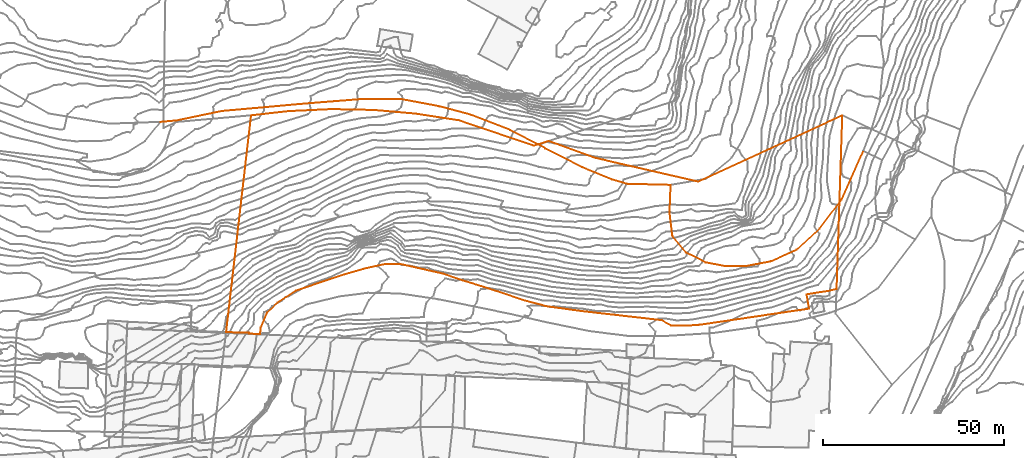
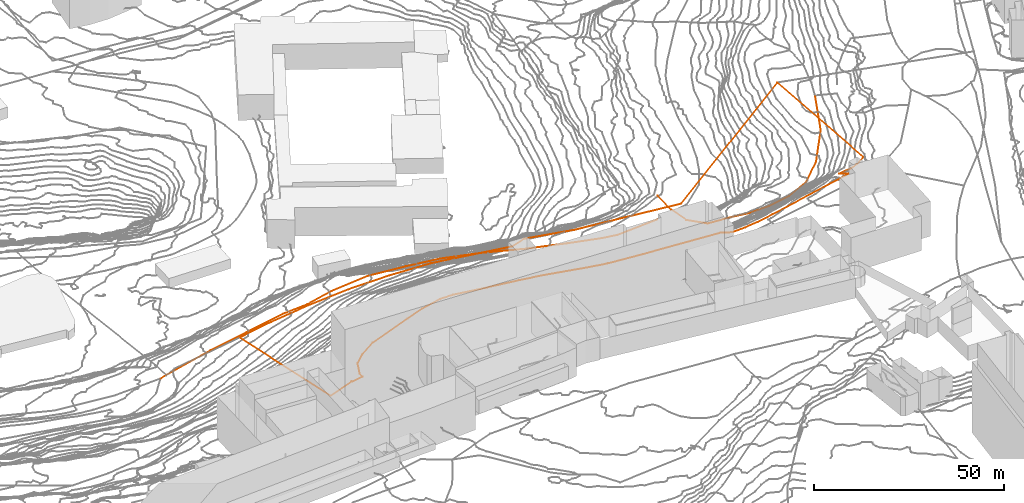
# Not in any storey, part 219 of 419: 4 proxies.
"""IFC2X3 model written with IfcOpenShell, lengths in metres."""

from ifc_helpers import new_model, entity, si_unit, frame, origin_with_axes, place, context, subcontext, project, element, save


model = new_model("IFC2X3")

# Units and contexts
model_context = context("Model", 3, precision=1e-05, world=origin_with_axes())
body_context = subcontext(model_context, "Body", "Model", "MODEL_VIEW")
ifc_project = project(units=[si_unit("AREAUNIT", "SQUARE_METRE"), si_unit("LENGTHUNIT", "METRE")], contexts=[model_context])

# Proxies
proxy_1_placement = place(None, frame((639.2920204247, 391.6976909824, 52.9), z_axis=(0.0, 0.0, 1.0), x_axis=(1.0, 0.0, 0.0)))
element("IfcBuildingElementProxy", 1, at=proxy_1_placement, Name="Route 180", ObjectType="NOTDEFINED", context=body_context, shape_type="GeometricCurveSet", body=[
    entity("IfcGeometricCurveSet", [entity("IfcPolyline", [entity("IfcCartesianPoint", [12.1000000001, -0.2999999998, 1.0]), entity("IfcCartesianPoint", [0.0, 0.0, 0.0])])]),
])
proxy_2_placement = place(None, frame((651.0920204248, 383.7976909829, 61.8), z_axis=(0.0, 0.0, 1.0), x_axis=(1.0, 0.0, 0.0)))
element("IfcBuildingElementProxy", 2, at=proxy_2_placement, Name="Route 191", ObjectType="NOTDEFINED", context=body_context, shape_type="GeometricCurveSet", body=[
    entity("IfcGeometricCurveSet", [entity("IfcPolyline", [entity("IfcCartesianPoint", [53.5, 17.0, 7.5]), entity("IfcCartesianPoint", [47.5, 3.5999999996, 6.7]), entity("IfcCartesianPoint", [41.4, -4.5, 3.6]), entity("IfcCartesianPoint", [35.1, -10.3000000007, 2.9]), entity("IfcCartesianPoint", [28.0, -13.5, 2.7]), entity("IfcCartesianPoint", [21.2, -14.8000000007, 2.6]), entity("IfcCartesianPoint", [15.2, -14.8000000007, 2.5]), entity("IfcCartesianPoint", [10.0, -13.8000000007, 2.3]), entity("IfcCartesianPoint", [4.6, -11.1000000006, 0.6]), entity("IfcCartesianPoint", [0.8, -6.6000000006, 0.3]), entity("IfcCartesianPoint", [0.0, 0.0, 0.0]), entity("IfcCartesianPoint", [0.3, 7.5999999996, -0.3])])]),
])
proxy_3_placement = place(None, frame((510.4920204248, 408.7976909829, 41.6), z_axis=(0.0, 0.0, 1.0), x_axis=(1.0, 0.0, 0.0)))
element("IfcBuildingElementProxy", 3, at=proxy_3_placement, Name="Route 274", ObjectType="NOTDEFINED", context=body_context, shape_type="GeometricCurveSet", body=[
    entity("IfcGeometricCurveSet", [entity("IfcPolyline", [entity("IfcCartesianPoint", [128.7999999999, -17.1000000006, 11.3]), entity("IfcCartesianPoint", [124.7, -15.9000000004, 11.0]), entity("IfcCartesianPoint", [116.4, -12.5, 10.2]), entity("IfcCartesianPoint", [106.2999999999, -7.3000000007, 8.8]), entity("IfcCartesianPoint", [96.5, -2.2000000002, 7.9]), entity("IfcCartesianPoint", [86.0, 1.8999999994, 7.2]), entity("IfcCartesianPoint", [77.1, 4.2999999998, 6.4]), entity("IfcCartesianPoint", [66.5, 6.2999999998, 5.8]), entity("IfcCartesianPoint", [55.6, 6.2999999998, 4.8]), entity("IfcCartesianPoint", [47.9, 5.6999999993, 3.6]), entity("IfcCartesianPoint", [40.4, 5.0999999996, 3.6]), entity("IfcCartesianPoint", [16.9, 3.0, 1.3]), entity("IfcCartesianPoint", [4.5, 0.3999999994, 0.8]), entity("IfcCartesianPoint", [0.0, 0.0, 0.0])])]),
])
proxy_4_placement = place(None, frame((528.6420204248, 350.7276909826, 64.8847661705), z_axis=(0.0, 0.0, 1.0), x_axis=(1.0, 0.0, 0.0)))
element("IfcBuildingElementProxy", 4, at=proxy_4_placement, Name="Cadastre 76", ObjectType="NOTDEFINED", context=body_context, shape_type="GeometricCurveSet", body=[
    entity("IfcGeometricCurveSet", [entity("IfcPolyline", [entity("IfcCartesianPoint", [0.0, 0.0, 0.0]), entity("IfcCartesianPoint", [6.88, 59.8700000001, -20.0265055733]), entity("IfcCartesianPoint", [17.11, 61.0300000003, -19.2693411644]), entity("IfcCartesianPoint", [28.9299999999, 61.5899999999, -18.3813486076]), entity("IfcCartesianPoint", [40.75, 61.3600000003, -17.3109069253]), entity("IfcCartesianPoint", [52.52, 60.3200000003, -16.3489511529]), entity("IfcCartesianPoint", [64.2, 58.5099999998, -15.4010660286]), entity("IfcCartesianPoint", [84.86, 51.5099999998, -13.0041656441]), entity("IfcCartesianPoint", [89.11, 52.79, -12.8535336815]), entity("IfcCartesianPoint", [101.6899999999, 48.1699999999, -11.5543662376]), entity("IfcCartesianPoint", [130.35, 41.5700000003, -9.183566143]), entity("IfcCartesianPoint", [170.1599999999, 59.8799999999, 4.6644581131]), entity("IfcCartesianPoint", [168.59, 11.96, 10.3522516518]), entity("IfcCartesianPoint", [166.24, 11.3600000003, 9.1961233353]), entity("IfcCartesianPoint", [164.27, 11.0999999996, 8.7324025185]), entity("IfcCartesianPoint", [160.3199999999, 10.4400000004, 8.8567245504]), entity("IfcCartesianPoint", [160.98, 6.4900000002, 10.9548060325]), entity("IfcCartesianPoint", [135.72, 2.7700000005, 9.0488463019]), entity("IfcCartesianPoint", [130.7999999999, 2.0300000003, 8.7826912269]), entity("IfcCartesianPoint", [126.77, 1.7800000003, 8.5783517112]), entity("IfcCartesianPoint", [122.88, 1.8300000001, 8.3534815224]), entity("IfcCartesianPoint", [120.21, 3.3099999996, 8.2586894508]), entity("IfcCartesianPoint", [98.15, 5.8099999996, 7.5825157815]), entity("IfcCartesianPoint", [88.4099999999, 7.1600000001, 7.2177617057]), entity("IfcCartesianPoint", [82.58, 8.7000000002, 6.9456009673]), entity("IfcCartesianPoint", [71.26, 12.46, 6.1140821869]), entity("IfcCartesianPoint", [65.4199999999, 14.25, 5.550009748]), entity("IfcCartesianPoint", [59.89, 16.1399999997, 4.7425832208]), entity("IfcCartesianPoint", [48.09, 18.8300000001, 4.1782020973]), entity("IfcCartesianPoint", [44.0599999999, 18.8499999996, 4.2357464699]), entity("IfcCartesianPoint", [37.89, 17.4900000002, 4.0980189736]), entity("IfcCartesianPoint", [32.52, 15.9500000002, 3.7857166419]), entity("IfcCartesianPoint", [19.36, 11.5, 3.2507963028]), entity("IfcCartesianPoint", [14.26, 8.21, 3.2243196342]), entity("IfcCartesianPoint", [11.28, 5.4100000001, 3.1975903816]), entity("IfcCartesianPoint", [9.5599999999, 1.2800000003, 2.9618598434]), entity("IfcCartesianPoint", [9.38, -0.5499999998, 3.2066337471]), entity("IfcCartesianPoint", [6.33, -0.4100000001, 2.5830348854]), entity("IfcCartesianPoint", [6.34, -0.1500000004, 2.56333872]), entity("IfcCartesianPoint", [0.0, 0.0, 0.0])])]),
])

save(model, "model.ifc")
